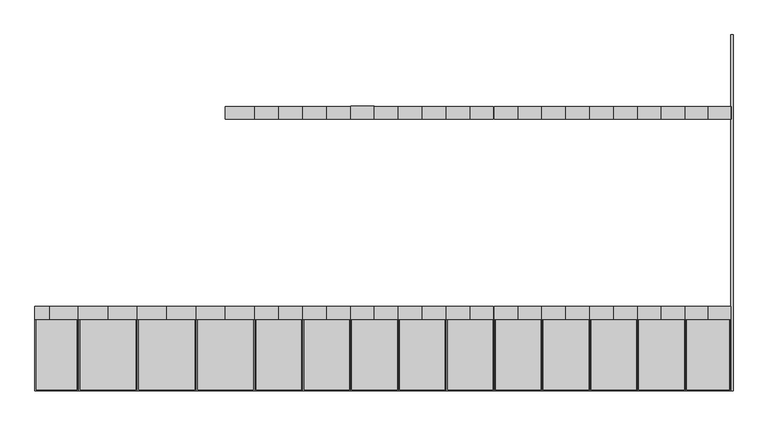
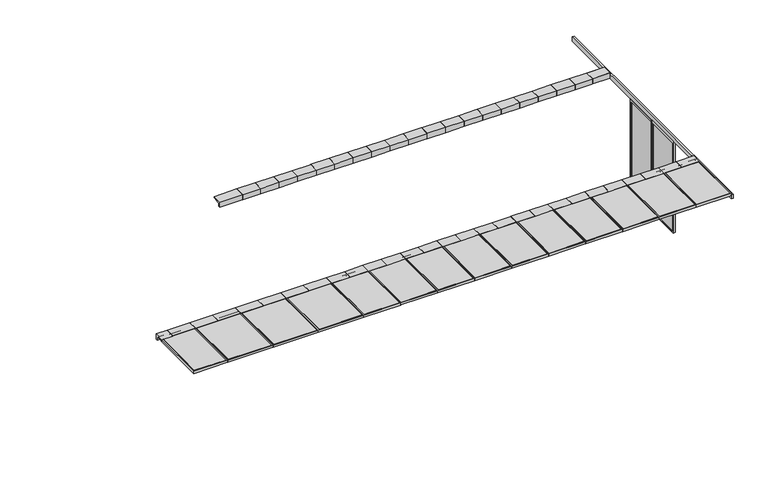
"""IFC4 building model written with IfcOpenShell, lengths in millimetres: proxy geometry, config9_Ccontainment_1 : config9_Ccontainment_1."""

from ifc_helpers import new_model, si_unit, frame, origin, place, context, project, spatial, polyline, outline, extrude, source, transform, mapped, element, save


def mechanical_equipment_370b5d70(model_context):
    return source(origin(), model_context, "Body", "SweptSolid", [
        extrude(outline(polyline([(6161.4061058, -662.3826974), (6161.4061058, -1344.3826974), (6149.0066915, -1344.3826974), (6149.0066915, -662.3826974), (6161.4061058, -662.3826974)])), frame((0.0, 0.0, 289.73194), z_axis=(0.0, 0.0, 1.0), x_axis=(1.0, 0.0, 0.0)), (0.0, 0.0, 1.0), 1892.4551173),
        extrude(outline(polyline([(6161.4061058, 99.6173026), (6161.4061058, -582.3826974), (6149.0066915, -582.3826974), (6149.0066915, 99.6173026), (6161.4061058, 99.6173026)])), frame((0.0, 0.0, 289.73194), z_axis=(0.0, 0.0, 1.0), x_axis=(1.0, 0.0, 0.0)), (0.0, 0.0, 1.0), 1892.4551173),
        extrude(outline(polyline([(-612.3826974, 2239.2632881), (129.6173026, 2239.2632881), (129.6173026, 271.0629975), (-612.3826974, 271.0629975), (-612.3826974, 2239.2632881)]), holes=[polyline([(99.6173026, 2182.1870572), (-582.3826974, 2182.1870572), (-582.3826974, 289.73194), (99.6173026, 289.73194), (99.6173026, 2182.1870572)])]), frame((6135.8199755, 0.0, 0.0), z_axis=(1.0, 0.0, 0.0), x_axis=(0.0, 1.0, 0.0)), (0.0, 0.0, 1.0), 38.2043108),
        extrude(outline(polyline([(-1374.3826974, 2239.2632881), (-632.3826974, 2239.2632881), (-632.3826974, 271.0629975), (-1374.3826974, 271.0629975), (-1374.3826974, 2239.2632881)]), holes=[polyline([(-662.3826974, 2182.1870572), (-1344.3826974, 2182.1870572), (-1344.3826974, 289.73194), (-662.3826974, 289.73194), (-662.3826974, 2182.1870572)])]), frame((6135.8199755, 0.0, 0.0), z_axis=(1.0, 0.0, 0.0), x_axis=(0.0, 1.0, 0.0)), (0.0, 0.0, 1.0), 38.2043108),
        extrude(outline(polyline([(6174.0237422, -3414.5387299), (6135.8199755, -3414.5387299), (6135.8199755, 2169.7733351), (6174.0237422, 2169.7733351), (6174.0237422, -3414.5387299)])), frame((0.0, 0.0, 2239.2632881), z_axis=(0.0, 0.0, 1.0), x_axis=(1.0, 0.0, 0.0)), (0.0, 0.0, 1.0), 88.3305766),
        extrude(outline(polyline([(-2089.8781613, 2358.0870535), (-2089.8781613, 2247.3287058), (-2124.8781613, 2247.3287058), (-2124.8781613, 2318.3027222), (-2179.8175642, 2318.3027222), (-2189.6018953, 2328.0870533), (-2291.2596192, 2328.0870533), (-2291.2596192, 2337.0870533), (-2282.2871762, 2337.0870533), (-2282.2871762, 2334.0870559), (-2288.2688032, 2334.0870559), (-2288.2688032, 2331.0870573), (-2188.4299219, 2331.0870573), (-2188.4299219, 2355.0870533), (-2291.2596192, 2355.0870533), (-2291.2596192, 2358.0870535), (-2089.8781613, 2358.0870535)])), frame((5781.5610325, 0.0, 0.0), z_axis=(1.0, 0.0, 0.0), x_axis=(0.0, 1.0, 0.0)), (0.0, 0.0, 1.0), 354.258943),
        extrude(outline(polyline([(-2089.8781372, 2358.0870535), (-2089.8781372, 2247.3287058), (-2124.8781372, 2247.3287058), (-2124.8781372, 2318.3027222), (-2179.8175402, 2318.3027222), (-2189.6018712, 2328.0870533), (-2291.2595951, 2328.0870533), (-2291.2595951, 2337.0870533), (-2282.2871522, 2337.0870533), (-2282.2871522, 2334.0870559), (-2288.2687791, 2334.0870559), (-2288.2687791, 2331.0870573), (-2188.4298978, 2331.0870573), (-2188.4298978, 2355.0870533), (-2291.2595951, 2355.0870533), (-2291.2595951, 2358.0870535), (-2089.8781372, 2358.0870535)])), frame((5427.3640476, 0.0, 0.0), z_axis=(1.0, 0.0, 0.0), x_axis=(0.0, 1.0, 0.0)), (0.0, 0.0, 1.0), 354.1969849),
        extrude(outline(polyline([(-2089.8781613, 2358.0870535), (-2089.8781613, 2247.3287058), (-2124.8781613, 2247.3287058), (-2124.8781613, 2318.3027222), (-2179.8175642, 2318.3027222), (-2189.6018953, 2328.0870533), (-2291.2596192, 2328.0870533), (-2291.2596192, 2337.0870533), (-2282.2871762, 2337.0870533), (-2282.2871762, 2334.0870559), (-2288.2688032, 2334.0870559), (-2288.2688032, 2331.0870573), (-2188.4299219, 2331.0870573), (-2188.4299219, 2355.0870533), (-2291.2596192, 2355.0870533), (-2291.2596192, 2358.0870535), (-2089.8781613, 2358.0870535)])), frame((5052.3648441, 0.0, 0.0), z_axis=(1.0, 0.0, 0.0), x_axis=(0.0, 1.0, 0.0)), (0.0, 0.0, 1.0), 374.9992035),
        extrude(outline(polyline([(-2089.8781613, 2358.0870535), (-2089.8781613, 2247.3287058), (-2124.8781613, 2247.3287058), (-2124.8781613, 2318.3027222), (-2179.8175642, 2318.3027222), (-2189.6018953, 2328.0870533), (-2291.2596192, 2328.0870533), (-2291.2596192, 2337.0870533), (-2282.2871762, 2337.0870533), (-2282.2871762, 2334.0870559), (-2288.2688032, 2334.0870559), (-2288.2688032, 2331.0870573), (-2188.4299219, 2331.0870573), (-2188.4299219, 2355.0870533), (-2291.2596192, 2355.0870533), (-2291.2596192, 2358.0870535), (-2089.8781613, 2358.0870535)])), frame((4679.8643253, 0.0, 0.0), z_axis=(1.0, 0.0, 0.0), x_axis=(0.0, 1.0, 0.0)), (0.0, 0.0, 1.0), 372.5005188),
        extrude(outline(polyline([(-2089.8781613, 2358.0870535), (-2089.8781613, 2247.3287058), (-2124.8781613, 2247.3287058), (-2124.8781613, 2318.3027222), (-2179.8175642, 2318.3027222), (-2189.6018953, 2328.0870533), (-2291.2596192, 2328.0870533), (-2291.2596192, 2337.0870533), (-2282.2871762, 2337.0870533), (-2282.2871762, 2334.0870559), (-2288.2688032, 2334.0870559), (-2288.2688032, 2331.0870573), (-2188.4299219, 2331.0870573), (-2188.4299219, 2355.0870533), (-2291.2596192, 2355.0870533), (-2291.2596192, 2358.0870535), (-2089.8781613, 2358.0870535)])), frame((4304.8639591, 0.0, 0.0), z_axis=(1.0, 0.0, 0.0), x_axis=(0.0, 1.0, 0.0)), (0.0, 0.0, 1.0), 372.5005188),
        extrude(outline(polyline([(-2089.8781613, 2358.0870535), (-2089.8781613, 2247.3287058), (-2124.8781613, 2247.3287058), (-2124.8781613, 2318.3027222), (-2179.8175642, 2318.3027222), (-2189.6018953, 2328.0870533), (-2291.2596192, 2328.0870533), (-2291.2596192, 2337.0870533), (-2282.2871762, 2337.0870533), (-2282.2871762, 2334.0870559), (-2288.2688032, 2334.0870559), (-2288.2688032, 2331.0870573), (-2188.4299219, 2331.0870573), (-2188.4299219, 2355.0870533), (-2291.2596192, 2355.0870533), (-2291.2596192, 2358.0870535), (-2089.8781613, 2358.0870535)])), frame((3929.8647556, 0.0, 0.0), z_axis=(1.0, 0.0, 0.0), x_axis=(0.0, 1.0, 0.0)), (0.0, 0.0, 1.0), 374.9992035),
        extrude(outline(polyline([(-2089.8781613, 2358.0870535), (-2089.8781613, 2247.3287058), (-2124.8781613, 2247.3287058), (-2124.8781613, 2318.3027222), (-2179.8175642, 2318.3027222), (-2189.6018953, 2328.0870533), (-2291.2596192, 2328.0870533), (-2291.2596192, 2337.0870533), (-2282.2871762, 2337.0870533), (-2282.2871762, 2334.0870559), (-2288.2688032, 2334.0870559), (-2288.2688032, 2331.0870573), (-2188.4299219, 2331.0870573), (-2188.4299219, 2355.0870533), (-2291.2596192, 2355.0870533), (-2291.2596192, 2358.0870535), (-2089.8781613, 2358.0870535)])), frame((3554.8643894, 0.0, 0.0), z_axis=(1.0, 0.0, 0.0), x_axis=(0.0, 1.0, 0.0)), (0.0, 0.0, 1.0), 375.0003662),
        extrude(outline(polyline([(-2089.8781372, 2358.0870535), (-2089.8781372, 2247.3287058), (-2124.8781372, 2247.3287058), (-2124.8781372, 2318.3027222), (-2179.8175402, 2318.3027222), (-2189.6018712, 2328.0870533), (-2291.2595951, 2328.0870533), (-2291.2595951, 2337.0870533), (-2282.2871522, 2337.0870533), (-2282.2871522, 2334.0870559), (-2288.2687791, 2334.0870559), (-2288.2687791, 2331.0870573), (-2188.4298978, 2331.0870573), (-2188.4298978, 2355.0870533), (-2291.2595951, 2355.0870533), (-2291.2595951, 2358.0870535), (-2089.8781372, 2358.0870535)])), frame((3179.8640232, 0.0, 0.0), z_axis=(1.0, 0.0, 0.0), x_axis=(0.0, 1.0, 0.0)), (0.0, 0.0, 1.0), 375.0003662),
        extrude(outline(polyline([(-2089.8781613, 2358.0870535), (-2089.8781613, 2247.3287058), (-2124.8781613, 2247.3287058), (-2124.8781613, 2318.3027222), (-2179.8175642, 2318.3027222), (-2189.6018953, 2328.0870533), (-2291.2596192, 2328.0870533), (-2291.2596192, 2337.0870533), (-2282.2871762, 2337.0870533), (-2282.2871762, 2334.0870559), (-2288.2688032, 2334.0870559), (-2288.2688032, 2331.0870573), (-2188.4299219, 2331.0870573), (-2188.4299219, 2355.0870533), (-2291.2596192, 2355.0870533), (-2291.2596192, 2358.0870535), (-2089.8781613, 2358.0870535)])), frame((2804.8648197, 0.0, 0.0), z_axis=(1.0, 0.0, 0.0), x_axis=(0.0, 1.0, 0.0)), (0.0, 0.0, 1.0), 374.9992035),
        extrude(outline(polyline([(-2089.8781372, 2358.0870535), (-2089.8781372, 2247.3287058), (-2124.8781372, 2247.3287058), (-2124.8781372, 2318.3027222), (-2179.8175402, 2318.3027222), (-2189.6018712, 2328.0870533), (-2291.2595951, 2328.0870533), (-2291.2595951, 2337.0870533), (-2282.2871522, 2337.0870533), (-2282.2871522, 2334.0870559), (-2288.2687791, 2334.0870559), (-2288.2687791, 2331.0870573), (-2188.4298978, 2331.0870573), (-2188.4298978, 2355.0870533), (-2291.2595951, 2355.0870533), (-2291.2595951, 2358.0870535), (-2089.8781372, 2358.0870535)])), frame((2429.8644535, 0.0, 0.0), z_axis=(1.0, 0.0, 0.0), x_axis=(0.0, 1.0, 0.0)), (0.0, 0.0, 1.0), 375.0003662),
        extrude(outline(polyline([(-2089.8781372, 2358.0870535), (-2089.8781372, 2247.3287058), (-2124.8781372, 2247.3287058), (-2124.8781372, 2318.3027222), (-2179.8175402, 2318.3027222), (-2189.6018712, 2328.0870533), (-2291.2595951, 2328.0870533), (-2291.2595951, 2337.0870533), (-2282.2871522, 2337.0870533), (-2282.2871522, 2334.0870559), (-2288.2687791, 2334.0870559), (-2288.2687791, 2331.0870573), (-2188.4298978, 2331.0870573), (-2188.4298978, 2355.0870533), (-2291.2595951, 2355.0870533), (-2291.2595951, 2358.0870535), (-2089.8781372, 2358.0870535)])), frame((2054.8640873, 0.0, 0.0), z_axis=(1.0, 0.0, 0.0), x_axis=(0.0, 1.0, 0.0)), (0.0, 0.0, 1.0), 365.2321403),
        extrude(outline(polyline([(-2089.8781613, 2358.0870535), (-2089.8781613, 2247.3287058), (-2124.8781613, 2247.3287058), (-2124.8781613, 2318.3027222), (-2179.8175642, 2318.3027222), (-2189.6018953, 2328.0870533), (-2291.2596192, 2328.0870533), (-2291.2596192, 2337.0870533), (-2282.2871762, 2337.0870533), (-2282.2871762, 2334.0870559), (-2288.2688032, 2334.0870559), (-2288.2688032, 2331.0870573), (-2188.4299219, 2331.0870573), (-2188.4299219, 2355.0870533), (-2291.2596192, 2355.0870533), (-2291.2596192, 2358.0870535), (-2089.8781613, 2358.0870535)])), frame((1679.8648838, 0.0, 0.0), z_axis=(1.0, 0.0, 0.0), x_axis=(0.0, 1.0, 0.0)), (0.0, 0.0, 1.0), 374.9992035),
        extrude(outline(polyline([(-2089.8781372, 2358.0870535), (-2089.8781372, 2247.3287058), (-2124.8781372, 2247.3287058), (-2124.8781372, 2318.3027222), (-2179.8175402, 2318.3027222), (-2189.6018712, 2328.0870533), (-2291.2595951, 2328.0870533), (-2291.2595951, 2337.0870533), (-2282.2871522, 2337.0870533), (-2282.2871522, 2334.0870559), (-2288.2687791, 2334.0870559), (-2288.2687791, 2331.0870573), (-2188.4298978, 2331.0870573), (-2188.4298978, 2355.0870533), (-2291.2595951, 2355.0870533), (-2291.2595951, 2358.0870535), (-2089.8781372, 2358.0870535)])), frame((1304.8645176, 0.0, 0.0), z_axis=(1.0, 0.0, 0.0), x_axis=(0.0, 1.0, 0.0)), (0.0, 0.0, 1.0), 375.0003662),
        extrude(outline(polyline([(-2089.8781613, 2358.0870535), (-2089.8781613, 2247.3287058), (-2124.8781613, 2247.3287058), (-2124.8781613, 2318.3027222), (-2179.8175642, 2318.3027222), (-2189.6018953, 2328.0870533), (-2291.2596192, 2328.0870533), (-2291.2596192, 2337.0870533), (-2282.2871762, 2337.0870533), (-2282.2871762, 2334.0870559), (-2288.2688032, 2334.0870559), (-2288.2688032, 2331.0870573), (-2188.4299219, 2331.0870573), (-2188.4299219, 2355.0870533), (-2291.2596192, 2355.0870533), (-2291.2596192, 2358.0870535), (-2089.8781613, 2358.0870535)])), frame((930.3641209, 0.0, 0.0), z_axis=(1.0, 0.0, 0.0), x_axis=(0.0, 1.0, 0.0)), (0.0, 0.0, 1.0), 374.5003967),
        extrude(outline(polyline([(-2089.8781372, 2358.0870535), (-2089.8781372, 2247.3287058), (-2124.8781372, 2247.3287058), (-2124.8781372, 2318.3027222), (-2179.8175402, 2318.3027222), (-2189.6018712, 2328.0870533), (-2291.2595951, 2328.0870533), (-2291.2595951, 2337.0870533), (-2282.2871522, 2337.0870533), (-2282.2871522, 2334.0870559), (-2288.2687791, 2334.0870559), (-2288.2687791, 2331.0870573), (-2188.4298978, 2331.0870573), (-2188.4298978, 2355.0870533), (-2291.2595951, 2355.0870533), (-2291.2595951, 2358.0870535), (-2089.8781372, 2358.0870535)])), frame((555.3649174, 0.0, 0.0), z_axis=(1.0, 0.0, 0.0), x_axis=(0.0, 1.0, 0.0)), (0.0, 0.0, 1.0), 374.499234),
        extrude(outline(polyline([(-2092.4181225, 2358.0870535), (-2092.4181225, 2247.3287058), (-2127.4181225, 2247.3287058), (-2127.4181225, 2318.3027222), (-2182.3575255, 2318.3027222), (-2192.1418565, 2328.0870533), (-2293.7995804, 2328.0870533), (-2293.7995804, 2337.0870533), (-2284.8271374, 2337.0870533), (-2284.8271374, 2334.0870559), (-2290.8087644, 2334.0870559), (-2290.8087644, 2331.0870573), (-2190.9698831, 2331.0870573), (-2190.9698831, 2355.0870533), (-2293.7995804, 2355.0870533), (-2293.7995804, 2358.0870535), (-2092.4181225, 2358.0870535)])), frame((180.8645207, 0.0, 0.0), z_axis=(1.0, 0.0, 0.0), x_axis=(0.0, 1.0, 0.0)), (0.0, 0.0, 1.0), 374.5003967),
        extrude(outline(polyline([(-2089.8781372, 2358.0870535), (-2089.8781372, 2247.3287058), (-2124.8781372, 2247.3287058), (-2124.8781372, 2318.3027222), (-2179.8175402, 2318.3027222), (-2189.6018712, 2328.0870533), (-2291.2595951, 2328.0870533), (-2291.2595951, 2337.0870533), (-2282.2871522, 2337.0870533), (-2282.2871522, 2334.0870559), (-2288.2687791, 2334.0870559), (-2288.2687791, 2331.0870573), (-2188.4298978, 2331.0870573), (-2188.4298978, 2355.0870533), (-2291.2595951, 2355.0870533), (-2291.2595951, 2358.0870535), (-2089.8781372, 2358.0870535)])), frame((-194.1358456, 0.0, 0.0), z_axis=(1.0, 0.0, 0.0), x_axis=(0.0, 1.0, 0.0)), (0.0, 0.0, 1.0), 374.5003967),
        extrude(outline(polyline([(-2089.8781372, 2358.0870535), (-2089.8781372, 2247.3287058), (-2124.8781372, 2247.3287058), (-2124.8781372, 2318.3027222), (-2179.8175402, 2318.3027222), (-2189.6018712, 2328.0870533), (-2291.2595951, 2328.0870533), (-2291.2595951, 2337.0870533), (-2282.2871522, 2337.0870533), (-2282.2871522, 2334.0870559), (-2288.2687791, 2334.0870559), (-2288.2687791, 2331.0870573), (-2188.4298978, 2331.0870573), (-2188.4298978, 2355.0870533), (-2291.2595951, 2355.0870533), (-2291.2595951, 2358.0870535), (-2089.8781372, 2358.0870535)])), frame((-568.6350796, 0.0, 0.0), z_axis=(1.0, 0.0, 0.0), x_axis=(0.0, 1.0, 0.0)), (0.0, 0.0, 1.0), 374.499234),
        extrude(outline(polyline([(-2089.8781372, 2358.0870535), (-2089.8781372, 2247.3287058), (-2124.8781372, 2247.3287058), (-2124.8781372, 2318.3027222), (-2179.8175402, 2318.3027222), (-2189.6018712, 2328.0870533), (-2291.2595951, 2328.0870533), (-2291.2595951, 2337.0870533), (-2282.2871522, 2337.0870533), (-2282.2871522, 2334.0870559), (-2288.2687791, 2334.0870559), (-2288.2687791, 2331.0870573), (-2188.4298978, 2331.0870573), (-2188.4298978, 2355.0870533), (-2291.2595951, 2355.0870533), (-2291.2595951, 2358.0870535), (-2089.8781372, 2358.0870535)])), frame((-943.6354458, 0.0, 0.0), z_axis=(1.0, 0.0, 0.0), x_axis=(0.0, 1.0, 0.0)), (0.0, 0.0, 1.0), 374.5003967),
        extrude(outline(polyline([(-2089.8781372, 2358.0870535), (-2089.8781372, 2247.3287058), (-2124.8781372, 2247.3287058), (-2124.8781372, 2318.3027222), (-2179.8175402, 2318.3027222), (-2189.6018712, 2328.0870533), (-2291.2595951, 2328.0870533), (-2291.2595951, 2337.0870533), (-2282.2871522, 2337.0870533), (-2282.2871522, 2334.0870559), (-2288.2687791, 2334.0870559), (-2288.2687791, 2331.0870573), (-2188.4298978, 2331.0870573), (-2188.4298978, 2355.0870533), (-2291.2595951, 2355.0870533), (-2291.2595951, 2358.0870535), (-2089.8781372, 2358.0870535)])), frame((-1318.1358425, 0.0, 0.0), z_axis=(1.0, 0.0, 0.0), x_axis=(0.0, 1.0, 0.0)), (0.0, 0.0, 1.0), 374.5003967),
        extrude(outline(polyline([(-2089.8781372, 2358.0870535), (-2089.8781372, 2247.3287058), (-2124.8781372, 2247.3287058), (-2124.8781372, 2318.3027222), (-2179.8175402, 2318.3027222), (-2189.6018712, 2328.0870533), (-2291.2595951, 2328.0870533), (-2291.2595951, 2337.0870533), (-2282.2871522, 2337.0870533), (-2282.2871522, 2334.0870559), (-2288.2687791, 2334.0870559), (-2288.2687791, 2331.0870573), (-2188.4298978, 2331.0870573), (-2188.4298978, 2355.0870533), (-2291.2595951, 2355.0870533), (-2291.2595951, 2358.0870535), (-2089.8781372, 2358.0870535)])), frame((-1779.3158321, 0.0, 0.0), z_axis=(1.0, 0.0, 0.0), x_axis=(0.0, 1.0, 0.0)), (0.0, 0.0, 1.0), 460.6800201),
        extrude(outline(polyline([(-2089.8781613, 2358.0870535), (-2089.8781613, 2247.3287058), (-2124.8781613, 2247.3287058), (-2124.8781613, 2318.3027222), (-2179.8175642, 2318.3027222), (-2189.6018953, 2328.0870533), (-2291.2596192, 2328.0870533), (-2291.2596192, 2337.0870533), (-2282.2871762, 2337.0870533), (-2282.2871762, 2334.0870559), (-2288.2688032, 2334.0870559), (-2288.2688032, 2331.0870573), (-2188.4299219, 2331.0870573), (-2188.4299219, 2355.0870533), (-2291.2596192, 2355.0870533), (-2291.2596192, 2358.0870535), (-2089.8781613, 2358.0870535)])), frame((-4764.4859463, 0.0, 0.0), z_axis=(1.0, 0.0, 0.0), x_axis=(0.0, 1.0, 0.0)), (0.0, 0.0, 1.0), 221.309166),
        extrude(outline(polyline([(-2089.8781372, 2358.0870535), (-2089.8781372, 2247.3287058), (-2124.8781372, 2247.3287058), (-2124.8781372, 2318.3027222), (-2179.8175402, 2318.3027222), (-2189.6018712, 2328.0870533), (-2291.2595951, 2328.0870533), (-2291.2595951, 2337.0870533), (-2282.2871522, 2337.0870533), (-2282.2871522, 2334.0870559), (-2288.2687791, 2334.0870559), (-2288.2687791, 2331.0870573), (-2188.4298978, 2331.0870573), (-2188.4298978, 2355.0870533), (-2291.2595951, 2355.0870533), (-2291.2595951, 2358.0870535), (-2089.8781372, 2358.0870535)])), frame((-2239.4226314, 0.0, 0.0), z_axis=(1.0, 0.0, 0.0), x_axis=(0.0, 1.0, 0.0)), (0.0, 0.0, 1.0), 460.1067993),
        extrude(outline(polyline([(-2089.8781613, 2358.0870535), (-2089.8781613, 2247.3287058), (-2124.8781613, 2247.3287058), (-2124.8781613, 2318.3027222), (-2179.8175642, 2318.3027222), (-2189.6018953, 2328.0870533), (-2291.2596192, 2328.0870533), (-2291.2596192, 2337.0870533), (-2282.2871762, 2337.0870533), (-2282.2871762, 2334.0870559), (-2288.2688032, 2334.0870559), (-2288.2688032, 2331.0870573), (-2188.4299219, 2331.0870573), (-2188.4299219, 2355.0870533), (-2291.2596192, 2355.0870533), (-2291.2596192, 2358.0870535), (-2089.8781613, 2358.0870535)])), frame((-2700.6032024, 0.0, 0.0), z_axis=(1.0, 0.0, 0.0), x_axis=(0.0, 1.0, 0.0)), (0.0, 0.0, 1.0), 460.106218),
        extrude(outline(polyline([(-2089.8781613, 2358.0870535), (-2089.8781613, 2247.3287058), (-2124.8781613, 2247.3287058), (-2124.8781613, 2318.3027222), (-2179.8175642, 2318.3027222), (-2189.6018953, 2328.0870533), (-2291.2596192, 2328.0870533), (-2291.2596192, 2337.0870533), (-2282.2871762, 2337.0870533), (-2282.2871762, 2334.0870559), (-2288.2688032, 2334.0870559), (-2288.2688032, 2331.0870573), (-2188.4299219, 2331.0870573), (-2188.4299219, 2355.0870533), (-2291.2596192, 2355.0870533), (-2291.2596192, 2358.0870535), (-2089.8781613, 2358.0870535)])), frame((-3160.708839, 0.0, 0.0), z_axis=(1.0, 0.0, 0.0), x_axis=(0.0, 1.0, 0.0)), (0.0, 0.0, 1.0), 460.1056366),
        extrude(outline(polyline([(6135.8199755, -3414.5387299), (5429.7255314, -3414.5387299), (5429.7255314, -2274.8781861), (6135.8199755, -2274.8781861), (6135.8199755, -3414.5387299)]), holes=[polyline([(6118.2160648, -3397.0569481), (6118.2160648, -2291.8781861), (5447.2674839, -2291.8781861), (5447.2674839, -3397.0569481), (6118.2160648, -3397.0569481)])]), frame((0.0, 0.0, 2312.1870572), z_axis=(0.0, 0.0, 1.0), x_axis=(1.0, 0.0, 0.0)), (0.0, 0.0, 1.0), 45.8999963),
        extrude(outline(polyline([(5448.2674839, -2292.8781861), (6117.2160648, -2292.8781861), (6117.2160648, -3396.0569481), (5448.2674839, -3396.0569481), (5448.2674839, -2292.8781861)])), frame((0.0, 0.0, 2312.1870572), z_axis=(0.0, 0.0, 1.0), x_axis=(1.0, 0.0, 0.0)), (0.0, 0.0, 1.0), 45.8999963),
        extrude(outline(polyline([(5427.3640476, -3414.5387299), (4679.8631626, -3414.5387299), (4679.8631626, -2274.8781861), (5427.3640476, -2274.8781861), (5427.3640476, -3414.5387299)]), holes=[polyline([(5408.7919254, -3397.0569481), (5408.7919254, -2291.8781861), (4698.4352848, -2291.8781861), (4698.4352848, -3397.0569481), (5408.7919254, -3397.0569481)])]), frame((0.0, 0.0, 2312.1870572), z_axis=(0.0, 0.0, 1.0), x_axis=(1.0, 0.0, 0.0)), (0.0, 0.0, 1.0), 45.8999963),
        extrude(outline(polyline([(4699.4352848, -2292.8781861), (5407.7919254, -2292.8781861), (5407.7919254, -3396.0569481), (4699.4352848, -3396.0569481), (4699.4352848, -2292.8781861)])), frame((0.0, 0.0, 2312.1870572), z_axis=(0.0, 0.0, 1.0), x_axis=(1.0, 0.0, 0.0)), (0.0, 0.0, 1.0), 45.8999963),
        extrude(outline(polyline([(4679.8643253, -3414.5387299), (3932.3634403, -3414.5387299), (3932.3634403, -2274.8781861), (4679.8643253, -2274.8781861), (4679.8643253, -3414.5387299)]), holes=[polyline([(4661.2922031, -3397.0569481), (4661.2922031, -2291.8781861), (3950.9355625, -2291.8781861), (3950.9355625, -3397.0569481), (4661.2922031, -3397.0569481)])]), frame((0.0, 0.0, 2312.1870572), z_axis=(0.0, 0.0, 1.0), x_axis=(1.0, 0.0, 0.0)), (0.0, 0.0, 1.0), 45.8999963),
        extrude(outline(polyline([(3951.9355625, -2292.8781861), (4660.2922031, -2292.8781861), (4660.2922031, -3396.0569481), (3951.9355625, -3396.0569481), (3951.9355625, -2292.8781861)])), frame((0.0, 0.0, 2312.1870572), z_axis=(0.0, 0.0, 1.0), x_axis=(1.0, 0.0, 0.0)), (0.0, 0.0, 1.0), 45.8999963),
        extrude(outline(polyline([(3929.8644755, -3414.5387299), (3182.3635905, -3414.5387299), (3182.3635905, -2274.8781861), (3929.8644755, -2274.8781861), (3929.8644755, -3414.5387299)]), holes=[polyline([(3911.2923533, -3397.0569481), (3911.2923533, -2291.8781861), (3200.9357127, -2291.8781861), (3200.9357127, -3397.0569481), (3911.2923533, -3397.0569481)])]), frame((0.0, 0.0, 2312.1870572), z_axis=(0.0, 0.0, 1.0), x_axis=(1.0, 0.0, 0.0)), (0.0, 0.0, 1.0), 45.8999963),
        extrude(outline(polyline([(3201.9357127, -2292.8781861), (3910.2923533, -2292.8781861), (3910.2923533, -3396.0569481), (3201.9357127, -3396.0569481), (3201.9357127, -2292.8781861)])), frame((0.0, 0.0, 2312.1870572), z_axis=(0.0, 0.0, 1.0), x_axis=(1.0, 0.0, 0.0)), (0.0, 0.0, 1.0), 45.8999963),
        extrude(outline(polyline([(3179.8644755, -3414.5387299), (2432.3635905, -3414.5387299), (2432.3635905, -2274.8781861), (3179.8644755, -2274.8781861), (3179.8644755, -3414.5387299)]), holes=[polyline([(3161.2923533, -3397.0569481), (3161.2923533, -2291.8781861), (2450.9357127, -2291.8781861), (2450.9357127, -3397.0569481), (3161.2923533, -3397.0569481)])]), frame((0.0, 0.0, 2312.1870572), z_axis=(0.0, 0.0, 1.0), x_axis=(1.0, 0.0, 0.0)), (0.0, 0.0, 1.0), 45.8999963),
        extrude(outline(polyline([(3160.2923533, -3396.0569481), (2451.9357127, -3396.0569481), (2451.9357127, -2292.8781861), (3160.2923533, -2292.8781861), (3160.2923533, -3396.0569481)])), frame((0.0, 0.0, 2312.1870572), z_axis=(0.0, 0.0, 1.0), x_axis=(1.0, 0.0, 0.0)), (0.0, 0.0, 1.0), 45.8999963),
        extrude(outline(polyline([(2429.8644755, -3414.5387299), (1682.3635905, -3414.5387299), (1682.3635905, -2274.8781861), (2429.8644755, -2274.8781861), (2429.8644755, -3414.5387299)]), holes=[polyline([(2411.2923533, -3397.0569481), (2411.2923533, -2291.8781861), (1700.9357127, -2291.8781861), (1700.9357127, -3397.0569481), (2411.2923533, -3397.0569481)])]), frame((0.0, 0.0, 2312.1870572), z_axis=(0.0, 0.0, 1.0), x_axis=(1.0, 0.0, 0.0)), (0.0, 0.0, 1.0), 45.8999963),
        extrude(outline(polyline([(1701.9357127, -2292.8781861), (2410.2923533, -2292.8781861), (2410.2923533, -3396.0569481), (1701.9357127, -3396.0569481), (1701.9357127, -2292.8781861)])), frame((0.0, 0.0, 2312.1870572), z_axis=(0.0, 0.0, 1.0), x_axis=(1.0, 0.0, 0.0)), (0.0, 0.0, 1.0), 45.8999963),
        extrude(outline(polyline([(1679.8644755, -3414.5387299), (932.3635905, -3414.5387299), (932.3635905, -2274.8781861), (1679.8644755, -2274.8781861), (1679.8644755, -3414.5387299)]), holes=[polyline([(1661.2923533, -3397.0569481), (1661.2923533, -2291.8781861), (950.9357127, -2291.8781861), (950.9357127, -3397.0569481), (1661.2923533, -3397.0569481)])]), frame((0.0, 0.0, 2312.1870572), z_axis=(0.0, 0.0, 1.0), x_axis=(1.0, 0.0, 0.0)), (0.0, 0.0, 1.0), 45.8999963),
        extrude(outline(polyline([(951.9357127, -2292.8781861), (1660.2923533, -2292.8781861), (1660.2923533, -3396.0569481), (951.9357127, -3396.0569481), (951.9357127, -2292.8781861)])), frame((0.0, 0.0, 2312.1870572), z_axis=(0.0, 0.0, 1.0), x_axis=(1.0, 0.0, 0.0)), (0.0, 0.0, 1.0), 45.8999963),
        extrude(outline(polyline([(930.3644755, -3414.5387299), (182.8635905, -3414.5387299), (182.8635905, -2274.8781861), (930.3644755, -2274.8781861), (930.3644755, -3414.5387299)]), holes=[polyline([(911.7923533, -3397.0569481), (911.7923533, -2292.7995804), (201.4357127, -2292.7995804), (201.4357127, -3397.0569481), (911.7923533, -3397.0569481)])]), frame((0.0, 0.0, 2312.1870572), z_axis=(0.0, 0.0, 1.0), x_axis=(1.0, 0.0, 0.0)), (0.0, 0.0, 1.0), 45.8999963),
        extrude(outline(polyline([(910.7923533, -3396.0569481), (202.4357127, -3396.0569481), (202.4357127, -2293.7995804), (910.7923533, -2293.7995804), (910.7923533, -3396.0569481)])), frame((0.0, 0.0, 2312.1870572), z_axis=(0.0, 0.0, 1.0), x_axis=(1.0, 0.0, 0.0)), (0.0, 0.0, 1.0), 45.8999963),
        extrude(outline(polyline([(180.8645207, -3414.5387299), (-566.6363644, -3414.5387299), (-566.6363644, -2274.8781861), (180.8645207, -2274.8781861), (180.8645207, -3414.5387299)]), holes=[polyline([(162.2923985, -3397.0569481), (162.2923985, -2291.8781861), (-548.0642422, -2291.8781861), (-548.0642422, -3397.0569481), (162.2923985, -3397.0569481)])]), frame((0.0, 0.0, 2312.1870572), z_axis=(0.0, 0.0, 1.0), x_axis=(1.0, 0.0, 0.0)), (0.0, 0.0, 1.0), 45.8999963),
        extrude(outline(polyline([(-547.0642422, -2292.8781861), (161.2923985, -2292.8781861), (161.2923985, -3396.0569481), (-547.0642422, -3396.0569481), (-547.0642422, -2292.8781861)])), frame((0.0, 0.0, 2312.1870572), z_axis=(0.0, 0.0, 1.0), x_axis=(1.0, 0.0, 0.0)), (0.0, 0.0, 1.0), 45.8999963),
        extrude(outline(polyline([(-568.6350796, -3414.5387299), (-1316.1359646, -3414.5387299), (-1316.1359646, -2274.8781861), (-568.6350796, -2274.8781861), (-568.6350796, -3414.5387299)]), holes=[polyline([(-587.2072018, -3397.0569481), (-587.2072018, -2291.8781861), (-1297.5638424, -2291.8781861), (-1297.5638424, -3397.0569481), (-587.2072018, -3397.0569481)])]), frame((0.0, 0.0, 2312.1870572), z_axis=(0.0, 0.0, 1.0), x_axis=(1.0, 0.0, 0.0)), (0.0, 0.0, 1.0), 45.8999963),
        extrude(outline(polyline([(-1296.5638424, -2292.8781861), (-588.2072018, -2292.8781861), (-588.2072018, -3396.0569481), (-1296.5638424, -3396.0569481), (-1296.5638424, -2292.8781861)])), frame((0.0, 0.0, 2312.1870572), z_axis=(0.0, 0.0, 1.0), x_axis=(1.0, 0.0, 0.0)), (0.0, 0.0, 1.0), 45.8999963),
        extrude(outline(polyline([(-1318.1358425, -3414.5387299), (-2237.4225052, -3414.5387299), (-2237.4225052, -2274.8781861), (-1318.1358425, -2274.8781861), (-1318.1358425, -3414.5387299)]), holes=[polyline([(-1340.9757275, -3397.0569481), (-1340.9757275, -2291.8781861), (-2214.5832016, -2291.8781861), (-2214.5832016, -3397.0569481), (-1340.9757275, -3397.0569481)])]), frame((0.0, 0.0, 2312.1870572), z_axis=(0.0, 0.0, 1.0), x_axis=(1.0, 0.0, 0.0)), (0.0, 0.0, 1.0), 45.8999963),
        extrude(outline(polyline([(-2213.5832016, -2292.8781861), (-1341.9757275, -2292.8781861), (-1341.9757275, -3396.0569481), (-2213.5832016, -3396.0569481), (-2213.5832016, -2292.8781861)])), frame((0.0, 0.0, 2312.1870572), z_axis=(0.0, 0.0, 1.0), x_axis=(1.0, 0.0, 0.0)), (0.0, 0.0, 1.0), 45.8999963),
        extrude(outline(polyline([(-2239.4228798, -3414.5387299), (-3158.7095425, -3414.5387299), (-3158.7095425, -2274.8781861), (-2239.4228798, -2274.8781861), (-2239.4228798, -3414.5387299)]), holes=[polyline([(-2262.2627647, -3397.0569481), (-2262.2627647, -2291.8781861), (-3135.8702389, -2291.8781861), (-3135.8702389, -3397.0569481), (-2262.2627647, -3397.0569481)])]), frame((0.0, 0.0, 2312.1870572), z_axis=(0.0, 0.0, 1.0), x_axis=(1.0, 0.0, 0.0)), (0.0, 0.0, 1.0), 45.8999963),
        extrude(outline(polyline([(-3134.8702389, -2292.8781861), (-2263.2627647, -2292.8781861), (-2263.2627647, -3396.0569481), (-3134.8702389, -3396.0569481), (-3134.8702389, -2292.8781861)])), frame((0.0, 0.0, 2312.1870572), z_axis=(0.0, 0.0, 1.0), x_axis=(1.0, 0.0, 0.0)), (0.0, 0.0, 1.0), 45.8999963),
        extrude(outline(polyline([(-2089.8781613, 2358.0870535), (-2089.8781613, 2247.3287058), (-2124.8781613, 2247.3287058), (-2124.8781613, 2318.3027222), (-2179.8175642, 2318.3027222), (-2189.6018953, 2328.0870533), (-2291.2596192, 2328.0870533), (-2291.2596192, 2337.0870533), (-2282.2871762, 2337.0870533), (-2282.2871762, 2334.0870559), (-2288.2688032, 2334.0870559), (-2288.2688032, 2331.0870573), (-2188.4299219, 2331.0870573), (-2188.4299219, 2355.0870533), (-2291.2596192, 2355.0870533), (-2291.2596192, 2358.0870535), (-2089.8781613, 2358.0870535)])), frame((-4081.995628, 0.0, 0.0), z_axis=(1.0, 0.0, 0.0), x_axis=(0.0, 1.0, 0.0)), (0.0, 0.0, 1.0), 459.4902588),
        extrude(outline(polyline([(-2089.8781613, 2358.0870535), (-2089.8781613, 2247.3287058), (-2124.8781613, 2247.3287058), (-2124.8781613, 2318.3027222), (-2179.8175642, 2318.3027222), (-2189.6018953, 2328.0870533), (-2291.2596192, 2328.0870533), (-2291.2596192, 2337.0870533), (-2282.2871762, 2337.0870533), (-2282.2871762, 2334.0870559), (-2288.2688032, 2334.0870559), (-2288.2688032, 2331.0870573), (-2188.4299219, 2331.0870573), (-2188.4299219, 2355.0870533), (-2291.2596192, 2355.0870533), (-2291.2596192, 2358.0870535), (-2089.8781613, 2358.0870535)])), frame((-3621.8899914, 0.0, 0.0), z_axis=(1.0, 0.0, 0.0), x_axis=(0.0, 1.0, 0.0)), (0.0, 0.0, 1.0), 460.106218),
        extrude(outline(polyline([(-3160.7090873, -3414.5387299), (-4079.99575, -3414.5387299), (-4079.99575, -2274.8781861), (-3160.7090873, -2274.8781861), (-3160.7090873, -3414.5387299)]), holes=[polyline([(-3183.5489723, -3397.0569481), (-3183.5489723, -2291.8781861), (-4057.1564464, -2291.8781861), (-4057.1564464, -3397.0569481), (-3183.5489723, -3397.0569481)])]), frame((0.0, 0.0, 2312.1870572), z_axis=(0.0, 0.0, 1.0), x_axis=(1.0, 0.0, 0.0)), (0.0, 0.0, 1.0), 45.8999963),
        extrude(outline(polyline([(-4056.1564464, -2292.8781861), (-3184.5489723, -2292.8781861), (-3184.5489723, -3396.0569481), (-4056.1564464, -3396.0569481), (-4056.1564464, -2292.8781861)])), frame((0.0, 0.0, 2312.1870572), z_axis=(0.0, 0.0, 1.0), x_axis=(1.0, 0.0, 0.0)), (0.0, 0.0, 1.0), 45.8999963),
        extrude(outline(polyline([(-2088.3653812, 2358.0870535), (-2088.3653812, 2247.3287058), (-2123.3653812, 2247.3287058), (-2123.3653812, 2318.3027222), (-2178.3047842, 2318.3027222), (-2188.0891152, 2328.0870533), (-2289.7468391, 2328.0870533), (-2289.7468391, 2337.0870533), (-2280.7743962, 2337.0870533), (-2280.7743962, 2334.0870559), (-2286.7560231, 2334.0870559), (-2286.7560231, 2331.0870573), (-2186.9171418, 2331.0870573), (-2186.9171418, 2355.0870533), (-2289.7468391, 2355.0870533), (-2289.7468391, 2358.0870535), (-2088.3653812, 2358.0870535)])), frame((-4542.1851986, 0.0, 0.0), z_axis=(1.0, 0.0, 0.0), x_axis=(0.0, 1.0, 0.0)), (0.0, 0.0, 1.0), 459.1146363),
        extrude(outline(polyline([(-4081.995628, -3414.5387299), (-4764.4859463, -3414.5387299), (-4764.4859463, -2274.8781861), (-4081.995628, -2274.8781861), (-4081.995628, -3414.5387299)]), holes=[polyline([(-4104.8355129, -3397.0569481), (-4104.8355129, -2291.8781861), (-4741.6460613, -2291.8781861), (-4741.6460613, -3397.0569481), (-4104.8355129, -3397.0569481)])]), frame((0.0, 0.0, 2312.1870572), z_axis=(0.0, 0.0, 1.0), x_axis=(1.0, 0.0, 0.0)), (0.0, 0.0, 1.0), 45.8999963),
        extrude(outline(polyline([(-4740.6460613, -2292.8781861), (-4105.8355129, -2292.8781861), (-4105.8355129, -3396.0569481), (-4740.6460613, -3396.0569481), (-4740.6460613, -2292.8781861)])), frame((0.0, 0.0, 2312.1870572), z_axis=(0.0, 0.0, 1.0), x_axis=(1.0, 0.0, 0.0)), (0.0, 0.0, 1.0), 45.8999963),
        extrude(outline(polyline([(845.1127665, 2358.0870535), (1046.4942244, 2358.0870535), (1046.4942244, 2355.0870533), (943.6645271, 2355.0870533), (943.6645271, 2331.0870573), (1043.5034084, 2331.0870573), (1043.5034084, 2334.0870559), (1037.5217814, 2334.0870559), (1037.5217814, 2337.0870533), (1046.4942244, 2337.0870533), (1046.4942244, 2328.0870533), (944.8365005, 2328.0870533), (935.0521694, 2318.3027222), (880.1127665, 2318.3027222), (880.1127665, 2247.3287058), (845.1127665, 2247.3287058), (845.1127665, 2358.0870535)])), frame((5781.5610325, 0.0, 0.0), z_axis=(1.0, 0.0, 0.0), x_axis=(0.0, 1.0, 0.0)), (0.0, 0.0, 1.0), 354.1969849),
        extrude(outline(polyline([(845.1127424, 2358.0870535), (1046.4942003, 2358.0870535), (1046.4942003, 2355.0870533), (943.664503, 2355.0870533), (943.664503, 2331.0870573), (1043.5033843, 2331.0870573), (1043.5033843, 2334.0870559), (1037.5217574, 2334.0870559), (1037.5217574, 2337.0870533), (1046.4942003, 2337.0870533), (1046.4942003, 2328.0870533), (944.8364764, 2328.0870533), (935.0521454, 2318.3027222), (880.1127424, 2318.3027222), (880.1127424, 2247.3287058), (845.1127424, 2247.3287058), (845.1127424, 2358.0870535)])), frame((5427.3640476, 0.0, 0.0), z_axis=(1.0, 0.0, 0.0), x_axis=(0.0, 1.0, 0.0)), (0.0, 0.0, 1.0), 721.6426439),
        extrude(outline(polyline([(845.1127665, 2358.0870535), (1046.4942244, 2358.0870535), (1046.4942244, 2355.0870533), (943.6645271, 2355.0870533), (943.6645271, 2331.0870573), (1043.5034084, 2331.0870573), (1043.5034084, 2334.0870559), (1037.5217814, 2334.0870559), (1037.5217814, 2337.0870533), (1046.4942244, 2337.0870533), (1046.4942244, 2328.0870533), (944.8365005, 2328.0870533), (935.0521694, 2318.3027222), (880.1127665, 2318.3027222), (880.1127665, 2247.3287058), (845.1127665, 2247.3287058), (845.1127665, 2358.0870535)])), frame((5052.3648441, 0.0, 0.0), z_axis=(1.0, 0.0, 0.0), x_axis=(0.0, 1.0, 0.0)), (0.0, 0.0, 1.0), 374.9992035),
        extrude(outline(polyline([(845.1127665, 2358.0870535), (1046.4942244, 2358.0870535), (1046.4942244, 2355.0870533), (943.6645271, 2355.0870533), (943.6645271, 2331.0870573), (1043.5034084, 2331.0870573), (1043.5034084, 2334.0870559), (1037.5217814, 2334.0870559), (1037.5217814, 2337.0870533), (1046.4942244, 2337.0870533), (1046.4942244, 2328.0870533), (944.8365005, 2328.0870533), (935.0521694, 2318.3027222), (880.1127665, 2318.3027222), (880.1127665, 2247.3287058), (845.1127665, 2247.3287058), (845.1127665, 2358.0870535)])), frame((4679.8643253, 0.0, 0.0), z_axis=(1.0, 0.0, 0.0), x_axis=(0.0, 1.0, 0.0)), (0.0, 0.0, 1.0), 372.5005188),
        extrude(outline(polyline([(845.1127665, 2358.0870535), (1046.4942244, 2358.0870535), (1046.4942244, 2355.0870533), (943.6645271, 2355.0870533), (943.6645271, 2331.0870573), (1043.5034084, 2331.0870573), (1043.5034084, 2334.0870559), (1037.5217814, 2334.0870559), (1037.5217814, 2337.0870533), (1046.4942244, 2337.0870533), (1046.4942244, 2328.0870533), (944.8365005, 2328.0870533), (935.0521694, 2318.3027222), (880.1127665, 2318.3027222), (880.1127665, 2247.3287058), (845.1127665, 2247.3287058), (845.1127665, 2358.0870535)])), frame((4304.8639591, 0.0, 0.0), z_axis=(1.0, 0.0, 0.0), x_axis=(0.0, 1.0, 0.0)), (0.0, 0.0, 1.0), 372.5005188),
        extrude(outline(polyline([(845.1127665, 2358.0870535), (1046.4942244, 2358.0870535), (1046.4942244, 2355.0870533), (943.6645271, 2355.0870533), (943.6645271, 2331.0870573), (1043.5034084, 2331.0870573), (1043.5034084, 2334.0870559), (1037.5217814, 2334.0870559), (1037.5217814, 2337.0870533), (1046.4942244, 2337.0870533), (1046.4942244, 2328.0870533), (944.8365005, 2328.0870533), (935.0521694, 2318.3027222), (880.1127665, 2318.3027222), (880.1127665, 2247.3287058), (845.1127665, 2247.3287058), (845.1127665, 2358.0870535)])), frame((3929.8647556, 0.0, 0.0), z_axis=(1.0, 0.0, 0.0), x_axis=(0.0, 1.0, 0.0)), (0.0, 0.0, 1.0), 374.9992035),
        extrude(outline(polyline([(845.1127665, 2358.0870535), (1046.4942244, 2358.0870535), (1046.4942244, 2355.0870533), (943.6645271, 2355.0870533), (943.6645271, 2331.0870573), (1043.5034084, 2331.0870573), (1043.5034084, 2334.0870559), (1037.5217814, 2334.0870559), (1037.5217814, 2337.0870533), (1046.4942244, 2337.0870533), (1046.4942244, 2328.0870533), (944.8365005, 2328.0870533), (935.0521694, 2318.3027222), (880.1127665, 2318.3027222), (880.1127665, 2247.3287058), (845.1127665, 2247.3287058), (845.1127665, 2358.0870535)])), frame((3554.8643894, 0.0, 0.0), z_axis=(1.0, 0.0, 0.0), x_axis=(0.0, 1.0, 0.0)), (0.0, 0.0, 1.0), 375.0003662),
        extrude(outline(polyline([(845.1127424, 2358.0870535), (1046.4942003, 2358.0870535), (1046.4942003, 2355.0870533), (943.664503, 2355.0870533), (943.664503, 2331.0870573), (1043.5033843, 2331.0870573), (1043.5033843, 2334.0870559), (1037.5217574, 2334.0870559), (1037.5217574, 2337.0870533), (1046.4942003, 2337.0870533), (1046.4942003, 2328.0870533), (944.8364764, 2328.0870533), (935.0521454, 2318.3027222), (880.1127424, 2318.3027222), (880.1127424, 2247.3287058), (845.1127424, 2247.3287058), (845.1127424, 2358.0870535)])), frame((3179.8640232, 0.0, 0.0), z_axis=(1.0, 0.0, 0.0), x_axis=(0.0, 1.0, 0.0)), (0.0, 0.0, 1.0), 375.0003662),
        extrude(outline(polyline([(845.1127665, 2358.0870535), (1046.4942244, 2358.0870535), (1046.4942244, 2355.0870533), (943.6645271, 2355.0870533), (943.6645271, 2331.0870573), (1043.5034084, 2331.0870573), (1043.5034084, 2334.0870559), (1037.5217814, 2334.0870559), (1037.5217814, 2337.0870533), (1046.4942244, 2337.0870533), (1046.4942244, 2328.0870533), (944.8365005, 2328.0870533), (935.0521694, 2318.3027222), (880.1127665, 2318.3027222), (880.1127665, 2247.3287058), (845.1127665, 2247.3287058), (845.1127665, 2358.0870535)])), frame((2804.8648197, 0.0, 0.0), z_axis=(1.0, 0.0, 0.0), x_axis=(0.0, 1.0, 0.0)), (0.0, 0.0, 1.0), 374.9992035),
        extrude(outline(polyline([(845.1127424, 2358.0870535), (1046.4942003, 2358.0870535), (1046.4942003, 2355.0870533), (943.664503, 2355.0870533), (943.664503, 2331.0870573), (1043.5033843, 2331.0870573), (1043.5033843, 2334.0870559), (1037.5217574, 2334.0870559), (1037.5217574, 2337.0870533), (1046.4942003, 2337.0870533), (1046.4942003, 2328.0870533), (944.8364764, 2328.0870533), (935.0521454, 2318.3027222), (880.1127424, 2318.3027222), (880.1127424, 2247.3287058), (845.1127424, 2247.3287058), (845.1127424, 2358.0870535)])), frame((2429.8644535, 0.0, 0.0), z_axis=(1.0, 0.0, 0.0), x_axis=(0.0, 1.0, 0.0)), (0.0, 0.0, 1.0), 375.0003662),
        extrude(outline(polyline([(845.1127424, 2358.0870535), (1046.4942003, 2358.0870535), (1046.4942003, 2355.0870533), (943.664503, 2355.0870533), (943.664503, 2331.0870573), (1043.5033843, 2331.0870573), (1043.5033843, 2334.0870559), (1037.5217574, 2334.0870559), (1037.5217574, 2337.0870533), (1046.4942003, 2337.0870533), (1046.4942003, 2328.0870533), (944.8364764, 2328.0870533), (935.0521454, 2318.3027222), (880.1127424, 2318.3027222), (880.1127424, 2247.3287058), (845.1127424, 2247.3287058), (845.1127424, 2358.0870535)])), frame((2054.8640873, 0.0, 0.0), z_axis=(1.0, 0.0, 0.0), x_axis=(0.0, 1.0, 0.0)), (0.0, 0.0, 1.0), 365.2321403),
        extrude(outline(polyline([(845.1127665, 2358.0870535), (1046.4942244, 2358.0870535), (1046.4942244, 2355.0870533), (943.6645271, 2355.0870533), (943.6645271, 2331.0870573), (1043.5034084, 2331.0870573), (1043.5034084, 2334.0870559), (1037.5217814, 2334.0870559), (1037.5217814, 2337.0870533), (1046.4942244, 2337.0870533), (1046.4942244, 2328.0870533), (944.8365005, 2328.0870533), (935.0521694, 2318.3027222), (880.1127665, 2318.3027222), (880.1127665, 2247.3287058), (845.1127665, 2247.3287058), (845.1127665, 2358.0870535)])), frame((1679.8648838, 0.0, 0.0), z_axis=(1.0, 0.0, 0.0), x_axis=(0.0, 1.0, 0.0)), (0.0, 0.0, 1.0), 374.9992035),
        extrude(outline(polyline([(845.1127424, 2358.0870535), (1046.4942003, 2358.0870535), (1046.4942003, 2355.0870533), (943.664503, 2355.0870533), (943.664503, 2331.0870573), (1043.5033843, 2331.0870573), (1043.5033843, 2334.0870559), (1037.5217574, 2334.0870559), (1037.5217574, 2337.0870533), (1046.4942003, 2337.0870533), (1046.4942003, 2328.0870533), (944.8364764, 2328.0870533), (935.0521454, 2318.3027222), (880.1127424, 2318.3027222), (880.1127424, 2247.3287058), (845.1127424, 2247.3287058), (845.1127424, 2358.0870535)])), frame((1304.8645176, 0.0, 0.0), z_axis=(1.0, 0.0, 0.0), x_axis=(0.0, 1.0, 0.0)), (0.0, 0.0, 1.0), 375.0003662),
        extrude(outline(polyline([(845.1127665, 2358.0870535), (1046.4942244, 2358.0870535), (1046.4942244, 2355.0870533), (943.6645271, 2355.0870533), (943.6645271, 2331.0870573), (1043.5034084, 2331.0870573), (1043.5034084, 2334.0870559), (1037.5217814, 2334.0870559), (1037.5217814, 2337.0870533), (1046.4942244, 2337.0870533), (1046.4942244, 2328.0870533), (944.8365005, 2328.0870533), (935.0521694, 2318.3027222), (880.1127665, 2318.3027222), (880.1127665, 2247.3287058), (845.1127665, 2247.3287058), (845.1127665, 2358.0870535)])), frame((930.3641209, 0.0, 0.0), z_axis=(1.0, 0.0, 0.0), x_axis=(0.0, 1.0, 0.0)), (0.0, 0.0, 1.0), 374.5003967),
        extrude(outline(polyline([(845.1127424, 2358.0870535), (1046.4942003, 2358.0870535), (1046.4942003, 2355.0870533), (943.664503, 2355.0870533), (943.664503, 2331.0870573), (1043.5033843, 2331.0870573), (1043.5033843, 2334.0870559), (1037.5217574, 2334.0870559), (1037.5217574, 2337.0870533), (1046.4942003, 2337.0870533), (1046.4942003, 2328.0870533), (944.8364764, 2328.0870533), (935.0521454, 2318.3027222), (880.1127424, 2318.3027222), (880.1127424, 2247.3287058), (845.1127424, 2247.3287058), (845.1127424, 2358.0870535)])), frame((555.3649174, 0.0, 0.0), z_axis=(1.0, 0.0, 0.0), x_axis=(0.0, 1.0, 0.0)), (0.0, 0.0, 1.0), 374.499234),
        extrude(outline(polyline([(847.6527277, 2358.0870535), (1049.0341856, 2358.0870535), (1049.0341856, 2355.0870533), (946.2044883, 2355.0870533), (946.2044883, 2331.0870573), (1046.0433696, 2331.0870573), (1046.0433696, 2334.0870559), (1040.0617426, 2334.0870559), (1040.0617426, 2337.0870533), (1049.0341856, 2337.0870533), (1049.0341856, 2328.0870533), (947.3764617, 2328.0870533), (937.5921307, 2318.3027222), (882.6527277, 2318.3027222), (882.6527277, 2247.3287058), (847.6527277, 2247.3287058), (847.6527277, 2358.0870535)])), frame((180.8645207, 0.0, 0.0), z_axis=(1.0, 0.0, 0.0), x_axis=(0.0, 1.0, 0.0)), (0.0, 0.0, 1.0), 374.5003967),
        extrude(outline(polyline([(845.1127424, 2358.0870535), (1046.4942003, 2358.0870535), (1046.4942003, 2355.0870533), (943.664503, 2355.0870533), (943.664503, 2331.0870573), (1043.5033843, 2331.0870573), (1043.5033843, 2334.0870559), (1037.5217574, 2334.0870559), (1037.5217574, 2337.0870533), (1046.4942003, 2337.0870533), (1046.4942003, 2328.0870533), (944.8364764, 2328.0870533), (935.0521454, 2318.3027222), (880.1127424, 2318.3027222), (880.1127424, 2247.3287058), (845.1127424, 2247.3287058), (845.1127424, 2358.0870535)])), frame((-194.1358456, 0.0, 0.0), z_axis=(1.0, 0.0, 0.0), x_axis=(0.0, 1.0, 0.0)), (0.0, 0.0, 1.0), 374.5003967),
        extrude(outline(polyline([(845.1127424, 2358.0870535), (1046.4942003, 2358.0870535), (1046.4942003, 2355.0870533), (943.664503, 2355.0870533), (943.664503, 2331.0870573), (1043.5033843, 2331.0870573), (1043.5033843, 2334.0870559), (1037.5217574, 2334.0870559), (1037.5217574, 2337.0870533), (1046.4942003, 2337.0870533), (1046.4942003, 2328.0870533), (944.8364764, 2328.0870533), (935.0521454, 2318.3027222), (880.1127424, 2318.3027222), (880.1127424, 2247.3287058), (845.1127424, 2247.3287058), (845.1127424, 2358.0870535)])), frame((-568.6350796, 0.0, 0.0), z_axis=(1.0, 0.0, 0.0), x_axis=(0.0, 1.0, 0.0)), (0.0, 0.0, 1.0), 374.499234),
        extrude(outline(polyline([(845.1127424, 2358.0870535), (1046.4942003, 2358.0870535), (1046.4942003, 2355.0870533), (943.664503, 2355.0870533), (943.664503, 2331.0870573), (1043.5033843, 2331.0870573), (1043.5033843, 2334.0870559), (1037.5217574, 2334.0870559), (1037.5217574, 2337.0870533), (1046.4942003, 2337.0870533), (1046.4942003, 2328.0870533), (944.8364764, 2328.0870533), (935.0521454, 2318.3027222), (880.1127424, 2318.3027222), (880.1127424, 2247.3287058), (845.1127424, 2247.3287058), (845.1127424, 2358.0870535)])), frame((-943.6354458, 0.0, 0.0), z_axis=(1.0, 0.0, 0.0), x_axis=(0.0, 1.0, 0.0)), (0.0, 0.0, 1.0), 374.5003967),
        extrude(outline(polyline([(845.1127424, 2358.0870535), (1046.4942003, 2358.0870535), (1046.4942003, 2355.0870533), (943.664503, 2355.0870533), (943.664503, 2331.0870573), (1043.5033843, 2331.0870573), (1043.5033843, 2334.0870559), (1037.5217574, 2334.0870559), (1037.5217574, 2337.0870533), (1046.4942003, 2337.0870533), (1046.4942003, 2328.0870533), (944.8364764, 2328.0870533), (935.0521454, 2318.3027222), (880.1127424, 2318.3027222), (880.1127424, 2247.3287058), (845.1127424, 2247.3287058), (845.1127424, 2358.0870535)])), frame((-1318.1358425, 0.0, 0.0), z_axis=(1.0, 0.0, 0.0), x_axis=(0.0, 1.0, 0.0)), (0.0, 0.0, 1.0), 374.5003967),
        extrude(outline(polyline([(845.1127424, 2358.0870535), (1046.4942003, 2358.0870535), (1046.4942003, 2355.0870533), (943.664503, 2355.0870533), (943.664503, 2331.0870573), (1043.5033843, 2331.0870573), (1043.5033843, 2334.0870559), (1037.5217574, 2334.0870559), (1037.5217574, 2337.0870533), (1046.4942003, 2337.0870533), (1046.4942003, 2328.0870533), (944.8364764, 2328.0870533), (935.0521454, 2318.3027222), (880.1127424, 2318.3027222), (880.1127424, 2247.3287058), (845.1127424, 2247.3287058), (845.1127424, 2358.0870535)])), frame((-1779.3158321, 0.0, 0.0), z_axis=(1.0, 0.0, 0.0), x_axis=(0.0, 1.0, 0.0)), (0.0, 0.0, 1.0), 460.6800201),
    ])


if __name__ == "__main__":
    model = new_model("IFC4")
    model_context = context("Model", 3, world=origin())
    ifc_project = project(units=[si_unit("LENGTHUNIT", "METRE", prefix="MILLI")], contexts=[model_context])
    site = spatial("IfcSite", under=ifc_project)
    building = spatial("IfcBuilding", under=site)
    placement = place(None, origin())
    mechanical_equipment_shape = mechanical_equipment_370b5d70(model_context)
    element("IfcBuildingElementProxy", 1, Name="config9_Ccontainment_1 : config9_Ccontainment_1", ObjectType="config9_Ccontainment_1 : config9_Ccontainment_1", at=placement, inside=building, context=model_context, shape_type="MappedRepresentation", body=[
        mapped(mechanical_equipment_shape, transform((0.0, 0.0, 0.0), x_axis=(1.0, 0.0, 0.0), y_axis=(0.0, 1.0, 0.0), z_axis=(0.0, 0.0, 1.0))),
    ])
    save(model, "model.ifc")
